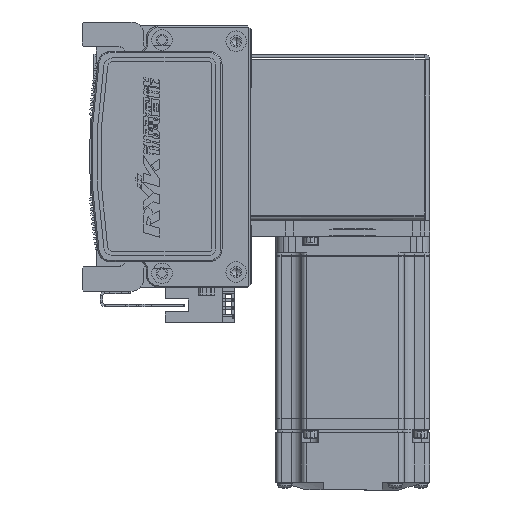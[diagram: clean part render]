
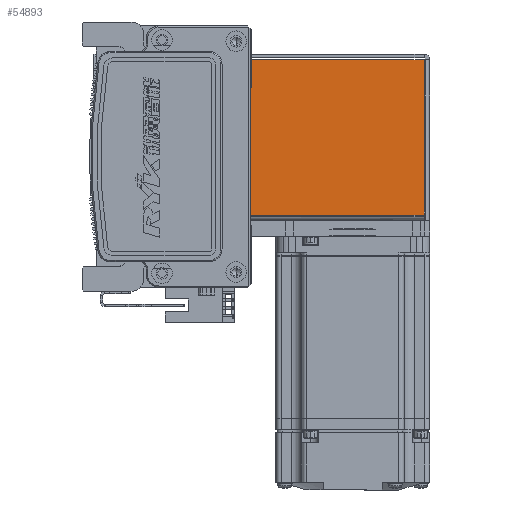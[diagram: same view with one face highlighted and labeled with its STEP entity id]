
A CAD part, left-side view. The second image highlights one B-rep face of the part: STEP entity #54893.
In plain terms, the highlighted planar face has unit normal (-1, 0, 0) as drawn and (0, 0, -1) by its records, which use the part's own axes.
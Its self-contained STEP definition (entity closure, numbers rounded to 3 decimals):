
#1965 = EDGE_CURVE ( 'NONE', #46655, #10418, #40584, .T. ) ;
#2888 = LINE ( 'NONE', #56787, #66474 ) ;
#3376 = CARTESIAN_POINT ( 'NONE',  ( 30.263, 0.737, -35. ) ) ;
#8131 = VERTEX_POINT ( 'NONE', #43831 ) ;
#9372 = DIRECTION ( 'NONE',  ( 0., -1., 0. ) ) ;
#10418 = VERTEX_POINT ( 'NONE', #3376 ) ;
#18212 = CARTESIAN_POINT ( 'NONE',  ( 30.263, 72.5, -35. ) ) ;
#20237 = VECTOR ( 'NONE', #61422, 1000. ) ;
#21589 = ORIENTED_EDGE ( 'NONE', *, *, #1965, .F. ) ;
#21971 = CARTESIAN_POINT ( 'NONE',  ( 32.5, 0.737, -35. ) ) ;
#22495 = VERTEX_POINT ( 'NONE', #41231 ) ;
#22984 = DIRECTION ( 'NONE',  ( 1., 0., 0. ) ) ;
#23031 = PLANE ( 'NONE',  #30686 ) ;
#25275 = VECTOR ( 'NONE', #49557, 1000. ) ;
#28143 = LINE ( 'NONE', #18212, #50216 ) ;
#28478 = CARTESIAN_POINT ( 'NONE',  ( 0., 0., -35. ) ) ;
#29099 = EDGE_CURVE ( 'NONE', #8131, #22495, #2888, .T. ) ;
#29439 = DIRECTION ( 'NONE',  ( 0., 0., 1. ) ) ;
#30686 = AXIS2_PLACEMENT_3D ( 'NONE', #28478, #29439, #33930 ) ;
#33438 = FACE_OUTER_BOUND ( 'NONE', #57794, .T. ) ;
#33829 = ORIENTED_EDGE ( 'NONE', *, *, #29099, .T. ) ;
#33930 = DIRECTION ( 'NONE',  ( 0., -1., 0. ) ) ;
#38959 = CARTESIAN_POINT ( 'NONE',  ( -30.293, 0., -35. ) ) ;
#40341 = LINE ( 'NONE', #38959, #25275 ) ;
#40584 = LINE ( 'NONE', #21971, #20237 ) ;
#41231 = CARTESIAN_POINT ( 'NONE',  ( 30.263, 72.5, -35. ) ) ;
#43831 = CARTESIAN_POINT ( 'NONE',  ( -30.293, 72.5, -35. ) ) ;
#46655 = VERTEX_POINT ( 'NONE', #50752 ) ;
#47322 = EDGE_CURVE ( 'NONE', #22495, #10418, #28143, .T. ) ;
#49557 = DIRECTION ( 'NONE',  ( 0., 1., 0. ) ) ;
#50216 = VECTOR ( 'NONE', #9372, 1000. ) ;
#50752 = CARTESIAN_POINT ( 'NONE',  ( -30.293, 0.737, -35. ) ) ;
#54893 = ADVANCED_FACE ( 'NONE', ( #33438 ), #23031, .F. ) ;
#56787 = CARTESIAN_POINT ( 'NONE',  ( 0., 72.5, -35. ) ) ;
#57794 = EDGE_LOOP ( 'NONE', ( #61451, #21589, #62819, #33829 ) ) ;
#60303 = EDGE_CURVE ( 'NONE', #46655, #8131, #40341, .T. ) ;
#61422 = DIRECTION ( 'NONE',  ( 1., 0., 0. ) ) ;
#61451 = ORIENTED_EDGE ( 'NONE', *, *, #47322, .T. ) ;
#62819 = ORIENTED_EDGE ( 'NONE', *, *, #60303, .T. ) ;
#66474 = VECTOR ( 'NONE', #22984, 1000. ) ;
